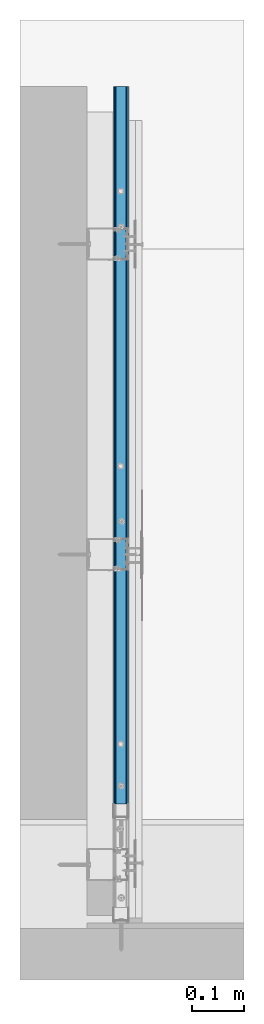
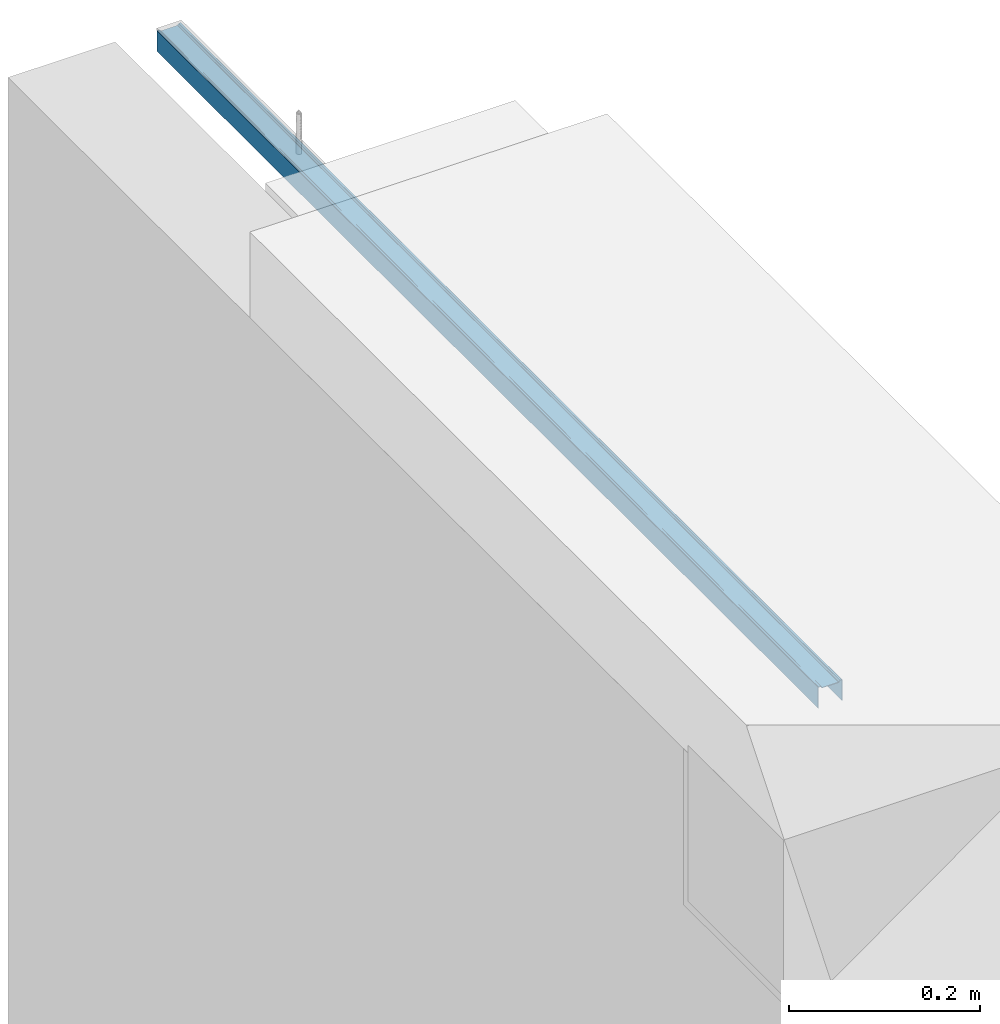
# One storey, part 2 of 62: 1 wall.
"""IFC2X3 building model written with IfcOpenShell, lengths in millimetres."""

from ifc_helpers import new_model, si_unit, frame, origin_with_axes, place, context, subcontext, project, spatial, faceted_brep, material, type_object, element, save


model = new_model("IFC2X3")

# Units and contexts
model_context = context("Model", 3, world=origin_with_axes())
body_context = subcontext(model_context, "Body", "Model", "MODEL_VIEW")
ifc_project = project(units=[si_unit("LENGTHUNIT", "METRE", prefix="MILLI"), si_unit("AREAUNIT", "SQUARE_METRE"), si_unit("VOLUMEUNIT", "CUBIC_METRE")], contexts=[model_context])

# Site, building, storey
site_placement = place(None, frame((2152.14102611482, -2015.0250894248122, 57.61556563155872), z_axis=(0.0, 0.0, 1.0), x_axis=(-1.1102230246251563e-16, 1.0, 0.0)))
site = spatial("IfcSite", under=ifc_project, at=site_placement, Name="Default Site", CompositionType="ELEMENT")
building_placement = place(site_placement, origin_with_axes())
building = spatial("IfcBuilding", under=site, at=building_placement, Name="Default Building", CompositionType="ELEMENT")
storey_placement = place(building_placement, origin_with_axes())
storey = spatial("IfcBuildingStorey", under=building, at=storey_placement, Name="Default Building Storey", CompositionType="ELEMENT", Elevation=57.61556563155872)

# Wall
ifc_material = material(Name="Undefined9")
wall_type = type_object("IfcWallType", Name="Profil RIGIPS UD 30 GypSerra®/Ultrastil®#4", PredefinedType="NOTDEFINED")
wall_placement = place(storey_placement, frame((5248.130911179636, 472.8602059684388, 2631.3590203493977), z_axis=(6.092619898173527e-14, 6.866451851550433e-13, -1.0), x_axis=(-1.0, -2.0134422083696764e-15, -6.092619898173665e-14)))
element("IfcWall", 1, at=wall_placement, inside=storey, type_object=wall_type, material=ifc_material, Name="Profil RIGIPS UD 30 GypSerra®/Ultrastil®", context=body_context, shape_type="Brep", body=[
    faceted_brep([(2893.189556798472, 1469.9159860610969, 140.97499847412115), (2893.189556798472, 1469.366073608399, 140.97499847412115), (2893.1895567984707, 1469.3660736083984, 114.77500200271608), (2893.1895567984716, 1469.3758487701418, 114.64985460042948), (2893.1895567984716, 1469.405174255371, 114.52778428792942), (2893.1895567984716, 1469.4532155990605, 114.41180855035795), (2893.1895567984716, 1469.518780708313, 114.30477350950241), (2893.1895567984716, 1469.600319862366, 114.20931667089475), (2893.189556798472, 1469.6958065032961, 114.12778496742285), (2893.189556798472, 1469.8028564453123, 114.06219750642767), (2893.189556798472, 1469.9188470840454, 114.01415616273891), (2893.189556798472, 1470.0409173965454, 113.98485302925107), (2893.189556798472, 1470.166087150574, 113.97500336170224), (2893.189556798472, 1472.0159769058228, 113.97500336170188), (2893.189556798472, 1472.1635580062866, 113.98871988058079), (2893.189556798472, 1472.3060131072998, 114.02940750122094), (2893.189556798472, 1472.4385738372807, 114.09565806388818), (2893.1895567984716, 1472.5565910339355, 114.18521404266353), (2893.189556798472, 1472.6560115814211, 114.29499834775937), (2893.1895567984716, 1473.6760854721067, 115.6549975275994), (2893.1895567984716, 1473.775506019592, 115.7647818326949), (2893.1895567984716, 1473.8935232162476, 115.85433781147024), (2893.189556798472, 1474.0260839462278, 115.92059582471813), (2893.189556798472, 1474.1685390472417, 115.96128344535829), (2893.189556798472, 1474.316000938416, 115.9749999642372), (2893.189556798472, 1493.6159849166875, 115.9749999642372), (2893.189556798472, 1493.7635660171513, 115.96128344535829), (2893.189556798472, 1493.9060211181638, 115.92059582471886), (2893.189556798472, 1494.0385818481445, 115.85433781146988), (2893.189556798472, 1494.1565990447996, 115.7647818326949), (2893.189556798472, 1494.256019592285, 115.6549975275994), (2893.1895567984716, 1495.2759742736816, 114.29499834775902), (2893.1895567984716, 1495.3755140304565, 114.1852140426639), (2893.1895567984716, 1495.4935312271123, 114.09565806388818), (2893.1895567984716, 1495.6260919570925, 114.02940750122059), (2893.1895567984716, 1495.7685470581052, 113.98871988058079), (2893.1895567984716, 1495.91600894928, 113.97500336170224), (2893.1895567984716, 1497.7660179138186, 113.97500336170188), (2893.1895567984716, 1497.8911876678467, 113.98485302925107), (2893.1895567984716, 1498.0132579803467, 114.01415616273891), (2893.1895567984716, 1498.1292486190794, 114.06219750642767), (2893.1895567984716, 1498.2362985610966, 114.12778496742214), (2893.1895567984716, 1498.331665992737, 114.20931667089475), (2893.1895567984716, 1498.4132051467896, 114.30477350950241), (2893.189556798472, 1498.4788894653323, 114.41180855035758), (2893.189556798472, 1498.5269308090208, 114.52778428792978), (2893.189556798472, 1498.5561370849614, 114.64985460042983), (2893.189556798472, 1498.5660314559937, 114.77500200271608), (2893.189556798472, 1498.5660314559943, 140.97499847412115), (2893.189556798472, 1498.0159997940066, 140.97499847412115), (2893.189556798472, 1498.0159997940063, 114.77500200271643), (2893.189556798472, 1498.012900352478, 114.73589390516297), (2893.189556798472, 1498.0038404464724, 114.69774693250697), (2893.189556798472, 1497.9888200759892, 114.66149985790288), (2893.189556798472, 1497.9683160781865, 114.62805420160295), (2893.189556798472, 1497.942805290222, 114.59822207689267), (2893.189556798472, 1497.9130029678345, 114.572748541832), (2893.189556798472, 1497.8795051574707, 114.55225199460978), (2893.189556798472, 1497.8432655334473, 114.53723907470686), (2893.189556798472, 1497.805118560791, 114.52807486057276), (2893.189556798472, 1497.7660179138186, 114.52499777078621), (2893.189556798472, 1495.91600894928, 114.52499777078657), (2893.189556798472, 1495.8698749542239, 114.52928930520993), (2893.189556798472, 1495.8254098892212, 114.54199999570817), (2893.189556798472, 1495.784044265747, 114.56270515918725), (2893.189556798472, 1495.747089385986, 114.59068953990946), (2893.189556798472, 1495.715975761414, 114.62499946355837), (2893.189556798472, 1494.6960210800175, 115.9849986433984), (2893.189556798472, 1494.5281744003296, 116.17025732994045), (2893.1895567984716, 1494.3289756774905, 116.32138490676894), (2893.1895567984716, 1494.1053390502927, 116.43319576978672), (2893.1895567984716, 1493.8650131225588, 116.5018528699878), (2893.1895567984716, 1493.615984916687, 116.52500182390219), (2893.189556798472, 1474.3160009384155, 116.52500182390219), (2893.189556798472, 1474.067091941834, 116.50185286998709), (2893.189556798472, 1473.8266468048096, 116.43319576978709), (2893.189556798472, 1473.603129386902, 116.32138490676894), (2893.189556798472, 1473.4039306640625, 116.17025732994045), (2893.189556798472, 1473.2360839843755, 115.98499864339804), (2893.1895567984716, 1472.2160100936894, 114.62499946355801), (2893.1895567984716, 1472.1848964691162, 114.5906895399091), (2893.1895567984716, 1472.148060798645, 114.56270515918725), (2893.1895567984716, 1472.106695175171, 114.54199999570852), (2893.1895567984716, 1472.062110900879, 114.52928930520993), (2893.1895567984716, 1472.0159769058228, 114.52499777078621), (2893.1895567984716, 1470.166087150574, 114.52499777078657), (2893.1895567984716, 1470.1268672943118, 114.52807486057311), (2893.1895567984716, 1470.088720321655, 114.53723907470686), (2893.1895567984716, 1470.0524806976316, 114.55225199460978), (2893.1895567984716, 1470.0191020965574, 114.572748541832), (2893.1895567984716, 1469.9892997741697, 114.59822207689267), (2893.1895567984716, 1469.9637889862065, 114.62805420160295), (2893.1895567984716, 1469.943284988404, 114.66149985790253), (2893.1895567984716, 1469.92826461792, 114.6977469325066), (2893.1895567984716, 1469.9190855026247, 114.73589390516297), (2893.1895567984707, 1469.9159860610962, 114.77500200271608), (1505.0902720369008, 1469.3660736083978, 114.775002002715), (1505.090272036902, 1469.3660736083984, 140.97499847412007), (1505.090272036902, 1469.9159860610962, 140.97499847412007), (1505.0902720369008, 1469.9159860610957, 114.775002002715), (1505.0902720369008, 1469.919085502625, 114.73589390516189), (1505.0902720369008, 1469.9282646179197, 114.69774693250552), (1505.0902720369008, 1469.9432849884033, 114.66149985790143), (1505.0902720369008, 1469.963788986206, 114.62805420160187), (1505.0902720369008, 1469.989299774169, 114.59822207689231), (1505.0902720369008, 1470.0191020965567, 114.57274854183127), (1505.0902720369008, 1470.052480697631, 114.55225199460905), (1505.0902720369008, 1470.0887203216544, 114.53723907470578), (1505.0902720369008, 1470.1268672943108, 114.52807486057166), (1505.0902720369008, 1470.166087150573, 114.52499777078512), (1505.0902720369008, 1472.015976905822, 114.52499777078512), (1505.0902720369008, 1472.0621109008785, 114.5292893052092), (1505.0902720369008, 1472.1066951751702, 114.5419999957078), (1505.0902720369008, 1472.148060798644, 114.56270515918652), (1505.0902720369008, 1472.1848964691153, 114.59068953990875), (1505.0902720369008, 1472.2160100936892, 114.62499946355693), (1505.090272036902, 1473.236083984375, 115.98499864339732), (1505.090272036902, 1473.4039306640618, 116.1702573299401), (1505.0902720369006, 1473.603129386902, 116.32138490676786), (1505.0902720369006, 1473.826646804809, 116.43319576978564), (1505.0902720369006, 1474.0670919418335, 116.50185286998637), (1505.0902720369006, 1474.3160009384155, 116.5250018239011), (1505.0902720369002, 1493.615984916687, 116.5250018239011), (1505.0902720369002, 1493.8650131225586, 116.50185286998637), (1505.0902720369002, 1494.1053390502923, 116.43319576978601), (1505.0902720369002, 1494.3289756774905, 116.32138490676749), (1505.0902720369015, 1494.528174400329, 116.17025732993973), (1505.0902720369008, 1494.696021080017, 115.98499864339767), (1505.0902720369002, 1495.7159757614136, 114.62499946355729), (1505.0902720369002, 1495.7470893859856, 114.59068953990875), (1505.0902720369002, 1495.7840442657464, 114.56270515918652), (1505.0902720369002, 1495.8254098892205, 114.5419999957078), (1505.0902720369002, 1495.869874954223, 114.52928930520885), (1505.0902720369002, 1495.916008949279, 114.52499777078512), (1505.0902720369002, 1497.7660179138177, 114.52499777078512), (1505.0902720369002, 1497.8051185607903, 114.52807486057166), (1505.0902720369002, 1497.8432655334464, 114.5372390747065), (1505.0902720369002, 1497.8795051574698, 114.55225199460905), (1505.0902720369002, 1497.9130029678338, 114.57274854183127), (1505.0902720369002, 1497.9428052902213, 114.59822207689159), (1505.0902720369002, 1497.968316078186, 114.62805420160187), (1505.0902720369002, 1497.9888200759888, 114.66149985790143), (1505.0902720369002, 1498.0038404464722, 114.69774693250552), (1505.0902720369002, 1498.012900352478, 114.73589390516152), (1505.0902720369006, 1498.0159997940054, 114.775002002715), (1505.0902720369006, 1498.0159997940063, 140.97499847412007), (1505.0902720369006, 1498.5660314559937, 140.97499847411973), (1505.0902720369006, 1498.566031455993, 114.775002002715), (1505.0902720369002, 1498.556137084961, 114.6498546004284), (1505.0902720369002, 1498.52693080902, 114.52778428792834), (1505.0902720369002, 1498.478889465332, 114.41180855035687), (1505.0902720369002, 1498.4132051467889, 114.30477350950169), (1505.0902720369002, 1498.331665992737, 114.20931667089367), (1505.0902720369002, 1498.236298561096, 114.12778496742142), (1505.0902720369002, 1498.129248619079, 114.06219750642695), (1505.0902720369, 1498.013257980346, 114.01415616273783), (1505.0902720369, 1497.8911876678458, 113.98485302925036), (1505.0902720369, 1497.7660179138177, 113.97500336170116), (1505.0902720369, 1495.916008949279, 113.97500336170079), (1505.0902720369, 1495.7685470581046, 113.98871988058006), (1505.0902720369, 1495.6260919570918, 114.02940750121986), (1505.0902720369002, 1495.4935312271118, 114.09565806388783), (1505.0902720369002, 1495.3755140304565, 114.18521404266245), (1505.0902720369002, 1495.275974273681, 114.29499834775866), (1505.0902720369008, 1494.2560195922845, 115.65499752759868), (1505.0902720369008, 1494.1565990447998, 115.76478183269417), (1505.0902720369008, 1494.0385818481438, 115.85433781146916), (1505.0902720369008, 1493.9060211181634, 115.92059582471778), (1505.0902720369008, 1493.7635660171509, 115.96128344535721), (1505.0902720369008, 1493.615984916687, 115.97499996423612), (1505.090272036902, 1474.3160009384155, 115.97499996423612), (1505.090272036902, 1474.1685390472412, 115.96128344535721), (1505.090272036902, 1474.0260839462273, 115.92059582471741), (1505.090272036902, 1473.8935232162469, 115.8543378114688), (1505.090272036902, 1473.7755060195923, 115.76478183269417), (1505.090272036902, 1473.6760854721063, 115.65499752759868), (1505.0902720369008, 1472.6560115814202, 114.29499834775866), (1505.0902720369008, 1472.5565910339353, 114.18521404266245), (1505.0902720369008, 1472.43857383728, 114.09565806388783), (1505.0902720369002, 1472.3060131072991, 114.0294075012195), (1505.0902720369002, 1472.1635580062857, 113.98871988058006), (1505.0902720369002, 1472.015976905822, 113.97500336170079), (1505.0902720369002, 1470.166087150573, 113.97500336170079), (1505.0902720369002, 1470.0409173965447, 113.98485302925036), (1505.0902720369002, 1469.9188470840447, 114.01415616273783), (1505.0902720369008, 1469.8028564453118, 114.06219750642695), (1505.0902720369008, 1469.695806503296, 114.12778496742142), (1505.0902720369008, 1469.600319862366, 114.2093166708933), (1505.0902720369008, 1469.5187807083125, 114.30477350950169), (1505.0902720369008, 1469.45321559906, 114.41180855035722), (1505.0902720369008, 1469.4051742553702, 114.5277842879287), (1505.0902720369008, 1469.3758487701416, 114.6498546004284)], [[[0, 1, 2, 3, 4, 5, 6, 7, 8, 9, 10, 11, 12, 13, 14, 15, 16, 17, 18, 19, 20, 21, 22, 23, 24, 25, 26, 27, 28, 29, 30, 31, 32, 33, 34, 35, 36, 37, 38, 39, 40, 41, 42, 43, 44, 45, 46, 47, 48, 49, 50, 51, 52, 53, 54, 55, 56, 57, 58, 59, 60, 61, 62, 63, 64, 65, 66, 67, 68, 69, 70, 71, 72, 73, 74, 75, 76, 77, 78, 79, 80, 81, 82, 83, 84, 85, 86, 87, 88, 89, 90, 91, 92, 93, 94, 95]], [[96, 97, 98, 99, 100, 101, 102, 103, 104, 105, 106, 107, 108, 109, 110, 111, 112, 113, 114, 115, 116, 117, 118, 119, 120, 121, 122, 123, 124, 125, 126, 127, 128, 129, 130, 131, 132, 133, 134, 135, 136, 137, 138, 139, 140, 141, 142, 143, 144, 145, 146, 147, 148, 149, 150, 151, 152, 153, 154, 155, 156, 157, 158, 159, 160, 161, 162, 163, 164, 165, 166, 167, 168, 169, 170, 171, 172, 173, 174, 175, 176, 177, 178, 179, 180, 181, 182, 183, 184, 185, 186, 187, 188, 189, 190, 191]], [[23, 171, 170, 24]], [[22, 172, 171, 23]], [[175, 174, 20, 19]], [[172, 22, 21, 173]], [[20, 174, 173, 21]], [[24, 170, 169, 25]], [[29, 165, 164, 30]], [[165, 29, 28, 166]], [[27, 167, 166, 28]], [[169, 168, 26, 25]], [[26, 168, 167, 27]], [[30, 164, 163, 31]], [[35, 159, 158, 36]], [[34, 160, 159, 35]], [[33, 32, 162, 161]], [[161, 160, 34, 33]], [[163, 162, 32, 31]], [[36, 158, 157, 37]], [[46, 45, 149, 148]], [[148, 147, 47, 46]], [[44, 150, 149, 45]], [[43, 42, 152, 151]], [[151, 150, 44, 43]], [[41, 40, 154, 153]], [[153, 152, 42, 41]], [[39, 155, 154, 40]], [[38, 37, 157, 156]], [[156, 155, 39, 38]], [[47, 147, 146, 48]], [[48, 146, 145, 49]], [[49, 145, 144, 50]], [[134, 60, 59, 135]], [[58, 136, 135, 59]], [[57, 137, 136, 58]], [[137, 57, 56, 138]], [[55, 139, 138, 56]], [[139, 55, 54, 140]], [[53, 141, 140, 54]], [[52, 142, 141, 53]], [[142, 52, 51, 143]], [[50, 144, 143, 51]], [[60, 134, 133, 61]], [[65, 129, 128, 66]], [[129, 65, 64, 130]], [[63, 131, 130, 64]], [[133, 132, 62, 61]], [[62, 132, 131, 63]], [[66, 128, 127, 67]], [[71, 123, 122, 72]], [[70, 69, 125, 124]], [[124, 123, 71, 70]], [[68, 126, 125, 69]], [[127, 126, 68, 67]], [[72, 122, 121, 73]], [[77, 117, 116, 78]], [[76, 118, 117, 77]], [[75, 74, 120, 119]], [[119, 118, 76, 75]], [[121, 120, 74, 73]], [[78, 116, 115, 79]], [[83, 111, 110, 84]], [[82, 112, 111, 83]], [[115, 114, 80, 79]], [[112, 82, 81, 113]], [[80, 114, 113, 81]], [[84, 110, 109, 85]], [[99, 95, 94, 100]], [[93, 101, 100, 94]], [[92, 102, 101, 93]], [[102, 92, 91, 103]], [[90, 104, 103, 91]], [[104, 90, 89, 105]], [[88, 106, 105, 89]], [[87, 107, 106, 88]], [[107, 87, 86, 108]], [[85, 109, 108, 86]], [[95, 99, 98, 0]], [[0, 98, 97, 1]], [[1, 97, 96, 2]], [[11, 10, 184, 183]], [[183, 182, 12, 11]], [[9, 185, 184, 10]], [[6, 5, 189, 188]], [[7, 6, 188, 187]], [[8, 7, 187, 186]], [[186, 185, 9, 8]], [[4, 190, 189, 5]], [[3, 2, 96, 191]], [[191, 190, 4, 3]], [[12, 182, 181, 13]], [[17, 177, 176, 18]], [[16, 15, 179, 178]], [[178, 177, 17, 16]], [[14, 180, 179, 15]], [[181, 180, 14, 13]], [[18, 176, 175, 19]]]),
])

save(model, "model.ifc")
